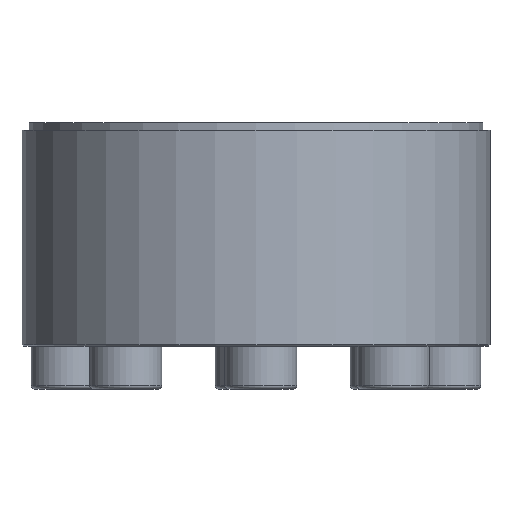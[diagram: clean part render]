
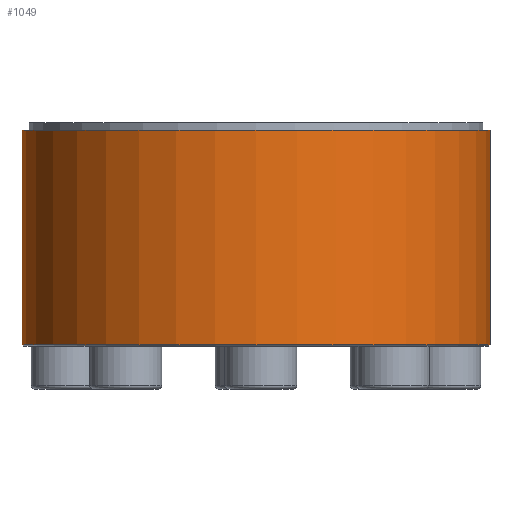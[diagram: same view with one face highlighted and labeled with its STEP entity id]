
A CAD part, front view. The second image highlights one B-rep face of the part: STEP entity #1049.
In plain terms, the highlighted cylindrical face has radius 32.5 mm (diameter 65 mm), a partial arc.
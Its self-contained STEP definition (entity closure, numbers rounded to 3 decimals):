
#41 = EDGE_LOOP ( 'NONE', ( #1567, #1488, #1972, #285 ) ) ;
#146 = CARTESIAN_POINT ( 'NONE',  ( 0., 0., 14.5 ) ) ;
#285 = ORIENTED_EDGE ( 'NONE', *, *, #1292, .T. ) ;
#329 = LINE ( 'NONE', #2595, #2249 ) ;
#600 = CARTESIAN_POINT ( 'NONE',  ( 32.5, 0., -15.3 ) ) ;
#621 = FACE_OUTER_BOUND ( 'NONE', #41, .T. ) ;
#638 = DIRECTION ( 'NONE',  ( -1., 0., 0. ) ) ;
#719 = DIRECTION ( 'NONE',  ( 0., 0., -1. ) ) ;
#740 = CIRCLE ( 'NONE', #1243, 32.5 ) ;
#751 = CARTESIAN_POINT ( 'NONE',  ( 0., 0., 0. ) ) ;
#760 = VECTOR ( 'NONE', #719, 1000. ) ;
#770 = VERTEX_POINT ( 'NONE', #600 ) ;
#805 = AXIS2_PLACEMENT_3D ( 'NONE', #751, #923, #1896 ) ;
#871 = EDGE_CURVE ( 'NONE', #2543, #770, #329, .T. ) ;
#912 = VERTEX_POINT ( 'NONE', #1389 ) ;
#923 = DIRECTION ( 'NONE',  ( 0., 0., -1. ) ) ;
#1049 = ADVANCED_FACE ( 'NONE', ( #621 ), #2646, .T. ) ;
#1104 = DIRECTION ( 'NONE',  ( 1., 0., 0. ) ) ;
#1243 = AXIS2_PLACEMENT_3D ( 'NONE', #1396, #2349, #638 ) ;
#1292 = EDGE_CURVE ( 'NONE', #912, #770, #740, .T. ) ;
#1304 = AXIS2_PLACEMENT_3D ( 'NONE', #146, #3013, #1104 ) ;
#1389 = CARTESIAN_POINT ( 'NONE',  ( -32.5, 0., -15.3 ) ) ;
#1396 = CARTESIAN_POINT ( 'NONE',  ( 0., 0., -15.3 ) ) ;
#1461 = VERTEX_POINT ( 'NONE', #1663 ) ;
#1488 = ORIENTED_EDGE ( 'NONE', *, *, #2303, .T. ) ;
#1492 = CARTESIAN_POINT ( 'NONE',  ( -32.5, 0., 0. ) ) ;
#1567 = ORIENTED_EDGE ( 'NONE', *, *, #871, .F. ) ;
#1652 = LINE ( 'NONE', #1492, #760 ) ;
#1663 = CARTESIAN_POINT ( 'NONE',  ( -32.5, 0., 14.5 ) ) ;
#1896 = DIRECTION ( 'NONE',  ( -1., 0., 0. ) ) ;
#1972 = ORIENTED_EDGE ( 'NONE', *, *, #2108, .T. ) ;
#2108 = EDGE_CURVE ( 'NONE', #1461, #912, #1652, .T. ) ;
#2139 = DIRECTION ( 'NONE',  ( 0., 0., -1. ) ) ;
#2249 = VECTOR ( 'NONE', #2139, 1000. ) ;
#2303 = EDGE_CURVE ( 'NONE', #2543, #1461, #2629, .T. ) ;
#2349 = DIRECTION ( 'NONE',  ( 0., 0., 1. ) ) ;
#2543 = VERTEX_POINT ( 'NONE', #2919 ) ;
#2595 = CARTESIAN_POINT ( 'NONE',  ( 32.5, 0., 0. ) ) ;
#2629 = CIRCLE ( 'NONE', #1304, 32.5 ) ;
#2646 = CYLINDRICAL_SURFACE ( 'NONE', #805, 32.5 ) ;
#2919 = CARTESIAN_POINT ( 'NONE',  ( 32.5, 0., 14.5 ) ) ;
#3013 = DIRECTION ( 'NONE',  ( 0., 0., -1. ) ) ;
